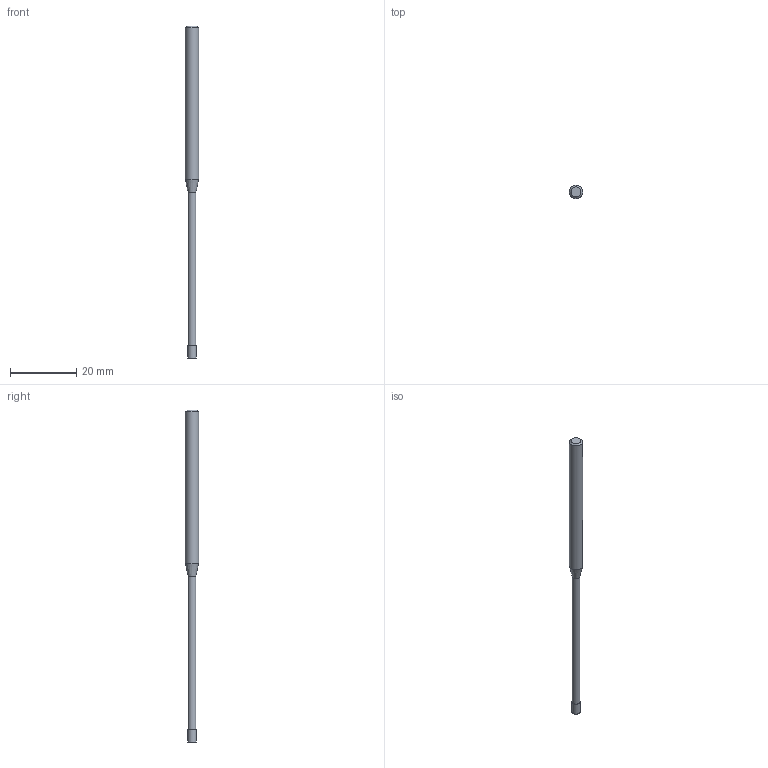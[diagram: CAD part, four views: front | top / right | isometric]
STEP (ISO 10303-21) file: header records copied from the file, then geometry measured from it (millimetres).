
FILE_DESCRIPTION((''),'2;1');
FILE_NAME('C:\Users\nsx150\AppData\Local\Temp\Mastercam 2021\17T8Q8S9EB\TEMP.step','2021-04-21T14:28:16',(''),(''),'STEP Write','Mastercam 2021 ... CNC Software, Inc.','');
FILE_SCHEMA(('AUTOMOTIVE_DESIGN'));
Length unit declared in the file: millimetre
Products named in the file (1): None
Bounding box: 4 x 4 x 100 mm (x, y, z)
Volume: 838.1 mm3; surface area: 1020.8 mm2
Topology: 2 solids, 2 shells, 9 faces, 12 edges, 7 vertices
Faces by surface type: plane 4, cylinder 3, cone 2
Full cylindrical faces by diameter (mm): 2.4 x1, 2.5 x1, 4 x1
Entity records: 211 total; most frequent: DIRECTION 36, CARTESIAN_POINT 25, AXIS2_PLACEMENT_3D 18, ORIENTED_EDGE 14, EDGE_LOOP 14, STYLED_ITEM 12, ADVANCED_FACE 9, FACE_BOUND 8
